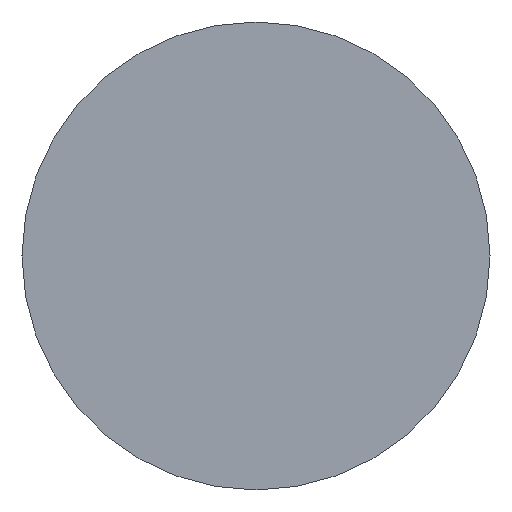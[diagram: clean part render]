
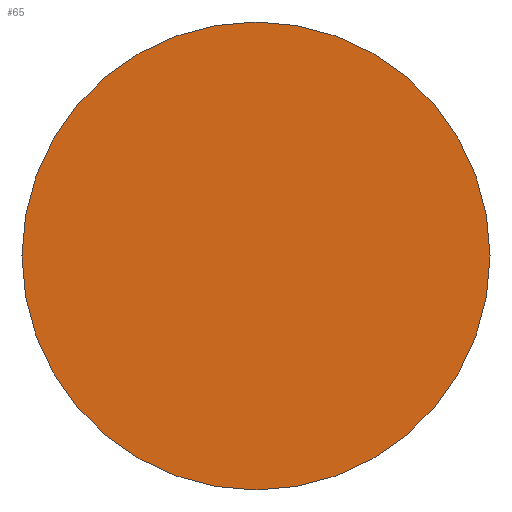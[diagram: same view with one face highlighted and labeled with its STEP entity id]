
A CAD part, left-side view. The second image highlights one B-rep face of the part: STEP entity #65.
In plain terms, the highlighted planar face has unit normal (-1, 0, 0).
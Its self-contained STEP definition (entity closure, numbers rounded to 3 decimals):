
#17=PLANE('',#97);
#22=FACE_OUTER_BOUND('',#28,.T.);
#28=EDGE_LOOP('',(#58));
#37=CIRCLE('',#96,10.65);
#41=VERTEX_POINT('',#132);
#46=EDGE_CURVE('',#41,#41,#37,.T.);
#58=ORIENTED_EDGE('',*,*,#46,.T.);
#65=ADVANCED_FACE('',(#22),#17,.T.);
#96=AXIS2_PLACEMENT_3D('',#133,#114,#115);
#97=AXIS2_PLACEMENT_3D('',#135,#117,#118);
#114=DIRECTION('center_axis',(-1.,0.,0.));
#115=DIRECTION('ref_axis',(0.,0.,1.));
#117=DIRECTION('center_axis',(-1.,0.,0.));
#118=DIRECTION('ref_axis',(0.,0.,1.));
#132=CARTESIAN_POINT('',(0.,-10.65,0.));
#133=CARTESIAN_POINT('Origin',(0.,0.,
0.));
#135=CARTESIAN_POINT('Origin',(0.,0.,0.));
